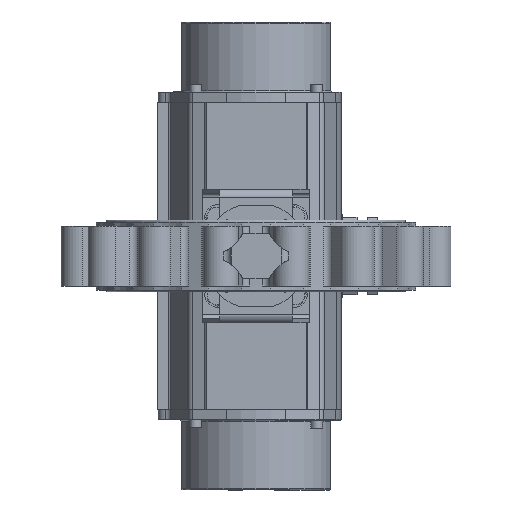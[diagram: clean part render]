
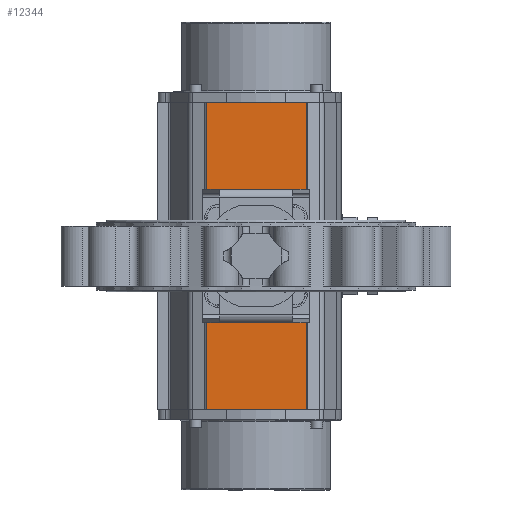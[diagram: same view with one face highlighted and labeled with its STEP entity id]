
A CAD part, front view. The second image highlights one B-rep face of the part: STEP entity #12344.
In plain terms, the highlighted planar face has unit normal (0, -1, 0).
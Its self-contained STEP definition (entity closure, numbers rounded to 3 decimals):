
#178 = CARTESIAN_POINT ( 'NONE',  ( 230., -147., 75. ) ) ;
#443 = LINE ( 'NONE', #20520, #15454 ) ;
#959 = ORIENTED_EDGE ( 'NONE', *, *, #12349, .F. ) ;
#1257 = FACE_BOUND ( 'NONE', #16096, .T. ) ;
#1384 = AXIS2_PLACEMENT_3D ( 'NONE', #28277, #10395, #5461 ) ;
#1397 = ORIENTED_EDGE ( 'NONE', *, *, #12646, .T. ) ;
#1677 = EDGE_CURVE ( 'NONE', #24244, #26893, #12843, .T. ) ;
#2031 = CIRCLE ( 'NONE', #20149, 8.75 ) ;
#2169 = ORIENTED_EDGE ( 'NONE', *, *, #7970, .F. ) ;
#2232 = CIRCLE ( 'NONE', #3133, 65. ) ;
#2542 = EDGE_LOOP ( 'NONE', ( #5767, #12087 ) ) ;
#2691 = ORIENTED_EDGE ( 'NONE', *, *, #6152, .F. ) ;
#2809 = CARTESIAN_POINT ( 'NONE',  ( 58.336, -147., -58.336 ) ) ;
#2936 = VERTEX_POINT ( 'NONE', #3506 ) ;
#3133 = AXIS2_PLACEMENT_3D ( 'NONE', #13849, #27217, #24878 ) ;
#3204 = EDGE_CURVE ( 'NONE', #13207, #27305, #27628, .T. ) ;
#3315 = CARTESIAN_POINT ( 'NONE',  ( 230., -147., 75. ) ) ;
#3506 = CARTESIAN_POINT ( 'NONE',  ( -58.336, -147., -49.586 ) ) ;
#3980 = CARTESIAN_POINT ( 'NONE',  ( 58.336, -147., -49.586 ) ) ;
#4246 = ORIENTED_EDGE ( 'NONE', *, *, #11661, .F. ) ;
#4463 = VERTEX_POINT ( 'NONE', #9704 ) ;
#4725 = EDGE_LOOP ( 'NONE', ( #26655, #2169 ) ) ;
#4759 = VERTEX_POINT ( 'NONE', #25331 ) ;
#5207 = DIRECTION ( 'NONE',  ( 0., 1., 0. ) ) ;
#5413 = EDGE_LOOP ( 'NONE', ( #1397, #12311, #15447, #6974 ) ) ;
#5461 = DIRECTION ( 'NONE',  ( 0., 0., -1. ) ) ;
#5717 = LINE ( 'NONE', #10526, #16220 ) ;
#5767 = ORIENTED_EDGE ( 'NONE', *, *, #25510, .F. ) ;
#6152 = EDGE_CURVE ( 'NONE', #13161, #23648, #19868, .T. ) ;
#6153 = EDGE_CURVE ( 'NONE', #22173, #7993, #15637, .T. ) ;
#6389 = AXIS2_PLACEMENT_3D ( 'NONE', #22187, #6635, #28586 ) ;
#6486 = CIRCLE ( 'NONE', #7426, 8.75 ) ;
#6614 = EDGE_CURVE ( 'NONE', #21923, #16955, #2232, .T. ) ;
#6635 = DIRECTION ( 'NONE',  ( 0., -1., 0. ) ) ;
#6974 = ORIENTED_EDGE ( 'NONE', *, *, #11813, .T. ) ;
#7293 = CARTESIAN_POINT ( 'NONE',  ( -58.336, -147., 67.086 ) ) ;
#7426 = AXIS2_PLACEMENT_3D ( 'NONE', #18323, #15701, #24710 ) ;
#7705 = DIRECTION ( 'NONE',  ( 0., -1., 0. ) ) ;
#7953 = FACE_BOUND ( 'NONE', #19428, .T. ) ;
#7970 = EDGE_CURVE ( 'NONE', #2936, #4759, #6486, .T. ) ;
#7993 = VERTEX_POINT ( 'NONE', #7293 ) ;
#8090 = AXIS2_PLACEMENT_3D ( 'NONE', #16229, #5207, #22924 ) ;
#8279 = ORIENTED_EDGE ( 'NONE', *, *, #22106, .F. ) ;
#8677 = CARTESIAN_POINT ( 'NONE',  ( -58.336, -147., 58.336 ) ) ;
#8737 = ORIENTED_EDGE ( 'NONE', *, *, #6614, .F. ) ;
#8825 = DIRECTION ( 'NONE',  ( 0., -1., 0. ) ) ;
#8959 = DIRECTION ( 'NONE',  ( 0., 0., -1. ) ) ;
#9256 = CARTESIAN_POINT ( 'NONE',  ( 230., -147., -75. ) ) ;
#9504 = CIRCLE ( 'NONE', #19248, 8.75 ) ;
#9704 = CARTESIAN_POINT ( 'NONE',  ( -230., -147., 75. ) ) ;
#10143 = FACE_BOUND ( 'NONE', #23699, .T. ) ;
#10238 = DIRECTION ( 'NONE',  ( -1., 0., 0. ) ) ;
#10255 = CARTESIAN_POINT ( 'NONE',  ( -58.336, -147., 49.586 ) ) ;
#10308 = CARTESIAN_POINT ( 'NONE',  ( 58.336, -147., 58.336 ) ) ;
#10395 = DIRECTION ( 'NONE',  ( 0., -1., 0. ) ) ;
#10526 = CARTESIAN_POINT ( 'NONE',  ( 230., -147., -75. ) ) ;
#11371 = CIRCLE ( 'NONE', #18342, 8.75 ) ;
#11418 = DIRECTION ( 'NONE',  ( 0., 0., -1. ) ) ;
#11661 = EDGE_CURVE ( 'NONE', #23648, #13161, #2031, .T. ) ;
#11813 = EDGE_CURVE ( 'NONE', #24244, #4463, #443, .T. ) ;
#11882 = CARTESIAN_POINT ( 'NONE',  ( -58.336, -147., 58.336 ) ) ;
#12087 = ORIENTED_EDGE ( 'NONE', *, *, #3204, .F. ) ;
#12311 = ORIENTED_EDGE ( 'NONE', *, *, #20189, .F. ) ;
#12344 = ADVANCED_FACE ( 'NONE', ( #1257, #14484, #23354, #10143, #7953, #27303 ), #16811, .F. ) ;
#12349 = EDGE_CURVE ( 'NONE', #7993, #22173, #9504, .T. ) ;
#12646 = EDGE_CURVE ( 'NONE', #4463, #19939, #17683, .T. ) ;
#12843 = LINE ( 'NONE', #178, #16354 ) ;
#13131 = CARTESIAN_POINT ( 'NONE',  ( 58.336, -147., 49.586 ) ) ;
#13161 = VERTEX_POINT ( 'NONE', #28046 ) ;
#13207 = VERTEX_POINT ( 'NONE', #14518 ) ;
#13849 = CARTESIAN_POINT ( 'NONE',  ( 0., -147., 0. ) ) ;
#14484 = FACE_BOUND ( 'NONE', #4725, .T. ) ;
#14518 = CARTESIAN_POINT ( 'NONE',  ( 58.336, -147., 67.086 ) ) ;
#15179 = AXIS2_PLACEMENT_3D ( 'NONE', #8677, #17814, #26240 ) ;
#15447 = ORIENTED_EDGE ( 'NONE', *, *, #1677, .F. ) ;
#15454 = VECTOR ( 'NONE', #22399, 1000. ) ;
#15637 = CIRCLE ( 'NONE', #15179, 8.75 ) ;
#15667 = CARTESIAN_POINT ( 'NONE',  ( -58.336, -147., -58.336 ) ) ;
#15701 = DIRECTION ( 'NONE',  ( 0., -1., 0. ) ) ;
#15780 = CIRCLE ( 'NONE', #1384, 65. ) ;
#16096 = EDGE_LOOP ( 'NONE', ( #2691, #4246 ) ) ;
#16220 = VECTOR ( 'NONE', #10238, 1000. ) ;
#16229 = CARTESIAN_POINT ( 'NONE',  ( 230., -147., 75. ) ) ;
#16354 = VECTOR ( 'NONE', #21852, 1000. ) ;
#16811 = PLANE ( 'NONE',  #8090 ) ;
#16955 = VERTEX_POINT ( 'NONE', #22882 ) ;
#17683 = LINE ( 'NONE', #24367, #21572 ) ;
#17814 = DIRECTION ( 'NONE',  ( 0., -1., 0. ) ) ;
#18282 = DIRECTION ( 'NONE',  ( 0., 0., -1. ) ) ;
#18323 = CARTESIAN_POINT ( 'NONE',  ( -58.336, -147., -58.336 ) ) ;
#18342 = AXIS2_PLACEMENT_3D ( 'NONE', #19154, #8825, #11418 ) ;
#19154 = CARTESIAN_POINT ( 'NONE',  ( 58.336, -147., 58.336 ) ) ;
#19248 = AXIS2_PLACEMENT_3D ( 'NONE', #11882, #20779, #27438 ) ;
#19428 = EDGE_LOOP ( 'NONE', ( #8279, #8737 ) ) ;
#19868 = CIRCLE ( 'NONE', #6389, 8.75 ) ;
#19939 = VERTEX_POINT ( 'NONE', #23925 ) ;
#20149 = AXIS2_PLACEMENT_3D ( 'NONE', #2809, #22725, #24322 ) ;
#20189 = EDGE_CURVE ( 'NONE', #26893, #19939, #5717, .T. ) ;
#20206 = DIRECTION ( 'NONE',  ( 0., -1., 0. ) ) ;
#20520 = CARTESIAN_POINT ( 'NONE',  ( 230., -147., 75. ) ) ;
#20779 = DIRECTION ( 'NONE',  ( 0., -1., 0. ) ) ;
#20889 = CARTESIAN_POINT ( 'NONE',  ( 0., -147., 65. ) ) ;
#21572 = VECTOR ( 'NONE', #8959, 1000. ) ;
#21852 = DIRECTION ( 'NONE',  ( 0., 0., -1. ) ) ;
#21923 = VERTEX_POINT ( 'NONE', #20889 ) ;
#22044 = AXIS2_PLACEMENT_3D ( 'NONE', #15667, #20206, #18282 ) ;
#22106 = EDGE_CURVE ( 'NONE', #16955, #21923, #15780, .T. ) ;
#22173 = VERTEX_POINT ( 'NONE', #10255 ) ;
#22187 = CARTESIAN_POINT ( 'NONE',  ( 58.336, -147., -58.336 ) ) ;
#22399 = DIRECTION ( 'NONE',  ( -1., 0., 0. ) ) ;
#22725 = DIRECTION ( 'NONE',  ( 0., -1., 0. ) ) ;
#22882 = CARTESIAN_POINT ( 'NONE',  ( 0., -147., -65. ) ) ;
#22924 = DIRECTION ( 'NONE',  ( 0., 0., 1. ) ) ;
#23354 = FACE_BOUND ( 'NONE', #2542, .T. ) ;
#23648 = VERTEX_POINT ( 'NONE', #3980 ) ;
#23699 = EDGE_LOOP ( 'NONE', ( #24889, #959 ) ) ;
#23925 = CARTESIAN_POINT ( 'NONE',  ( -230., -147., -75. ) ) ;
#24244 = VERTEX_POINT ( 'NONE', #3315 ) ;
#24322 = DIRECTION ( 'NONE',  ( 0., 0., -1. ) ) ;
#24367 = CARTESIAN_POINT ( 'NONE',  ( -230., -147., 75. ) ) ;
#24710 = DIRECTION ( 'NONE',  ( 0., 0., -1. ) ) ;
#24836 = AXIS2_PLACEMENT_3D ( 'NONE', #10308, #7705, #25697 ) ;
#24878 = DIRECTION ( 'NONE',  ( 0., 0., -1. ) ) ;
#24889 = ORIENTED_EDGE ( 'NONE', *, *, #6153, .F. ) ;
#25260 = EDGE_CURVE ( 'NONE', #4759, #2936, #27599, .T. ) ;
#25331 = CARTESIAN_POINT ( 'NONE',  ( -58.336, -147., -67.086 ) ) ;
#25510 = EDGE_CURVE ( 'NONE', #27305, #13207, #11371, .T. ) ;
#25697 = DIRECTION ( 'NONE',  ( 0., 0., -1. ) ) ;
#26240 = DIRECTION ( 'NONE',  ( 0., 0., -1. ) ) ;
#26655 = ORIENTED_EDGE ( 'NONE', *, *, #25260, .F. ) ;
#26893 = VERTEX_POINT ( 'NONE', #9256 ) ;
#27217 = DIRECTION ( 'NONE',  ( 0., -1., 0. ) ) ;
#27303 = FACE_OUTER_BOUND ( 'NONE', #5413, .T. ) ;
#27305 = VERTEX_POINT ( 'NONE', #13131 ) ;
#27438 = DIRECTION ( 'NONE',  ( 0., 0., -1. ) ) ;
#27599 = CIRCLE ( 'NONE', #22044, 8.75 ) ;
#27628 = CIRCLE ( 'NONE', #24836, 8.75 ) ;
#28046 = CARTESIAN_POINT ( 'NONE',  ( 58.336, -147., -67.086 ) ) ;
#28277 = CARTESIAN_POINT ( 'NONE',  ( 0., -147., 0. ) ) ;
#28586 = DIRECTION ( 'NONE',  ( 0., 0., -1. ) ) ;
